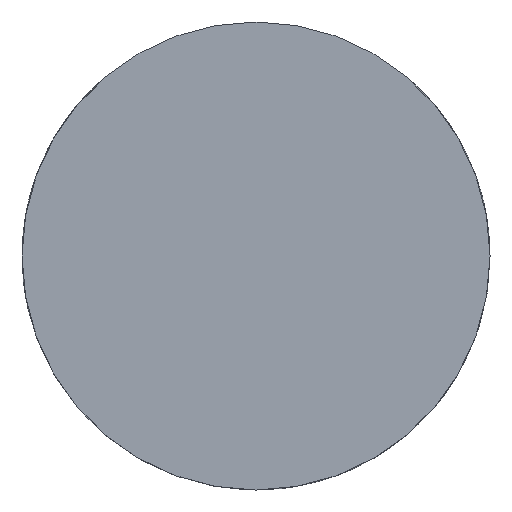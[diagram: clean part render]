
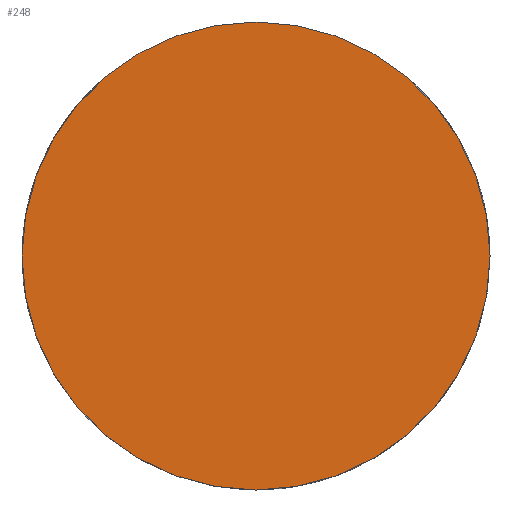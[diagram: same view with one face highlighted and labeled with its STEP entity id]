
A CAD part, front view. The second image highlights one B-rep face of the part: STEP entity #248.
In plain terms, the highlighted planar face has unit normal (0, -1, 0).
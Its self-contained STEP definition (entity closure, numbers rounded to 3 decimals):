
#30=CARTESIAN_POINT('',(0.,-12.5,0.));
#31=DIRECTION('',(0.,1.,0.));
#32=DIRECTION('',(1.,0.,0.));
#33=AXIS2_PLACEMENT_3D('',#30,#31,#32);
#35=CARTESIAN_POINT('',(0.,-12.5,0.));
#36=DIRECTION('',(0.,1.,0.));
#37=DIRECTION('',(-1.,0.,0.));
#38=AXIS2_PLACEMENT_3D('',#35,#36,#37);
#212=CARTESIAN_POINT('',(7.5,-12.5,0.));
#213=CARTESIAN_POINT('',(-7.5,-12.5,0.));
#214=VERTEX_POINT('',#212);
#215=VERTEX_POINT('',#213);
#237=CARTESIAN_POINT('',(0.,-12.5,0.));
#238=DIRECTION('',(0.,1.,0.));
#239=DIRECTION('',(1.,0.,0.));
#240=AXIS2_PLACEMENT_3D('',#237,#238,#239);
#241=PLANE('',#240);
#243=ORIENTED_EDGE('',*,*,#242,.T.);
#245=ORIENTED_EDGE('',*,*,#244,.T.);
#246=EDGE_LOOP('',(#243,#245));
#247=FACE_OUTER_BOUND('',#246,.F.);
#248=ADVANCED_FACE('',(#247),#241,.F.);
#34=CIRCLE('',#33,7.5);
#39=CIRCLE('',#38,7.5);
#242=EDGE_CURVE('',#214,#215,#34,.T.);
#244=EDGE_CURVE('',#215,#214,#39,.T.);
